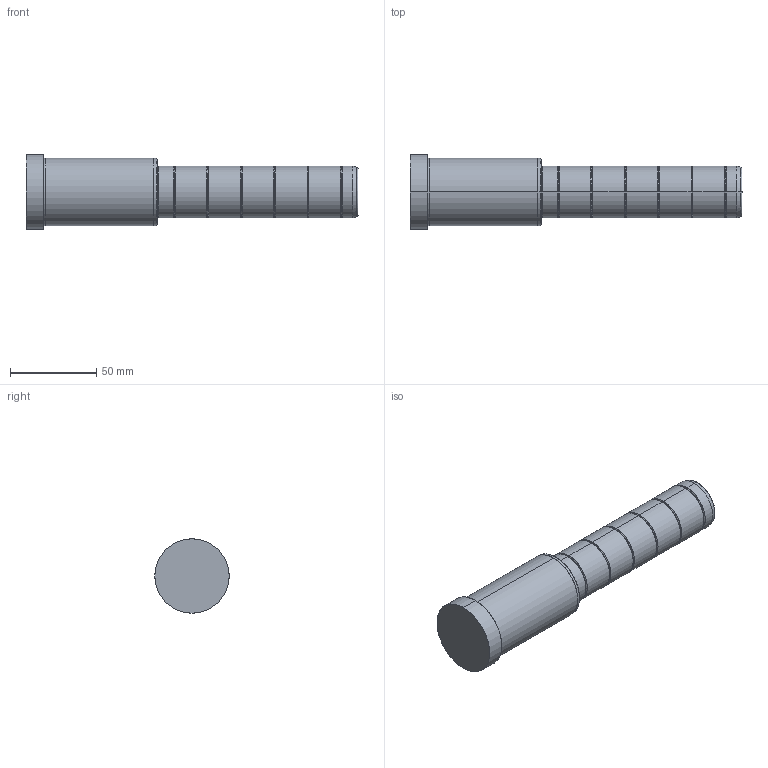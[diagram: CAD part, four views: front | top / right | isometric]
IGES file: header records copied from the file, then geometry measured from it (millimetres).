
Start section: SolidWorks IGES file using analytic representation for surfaces
Global section: file name: C:\Documents and Settings\kalite-mail\Desktop\IGS\D02\30\D02 - 30x76x116.IGS; native system: SolidWorks 2008; preprocessor: SolidWorks 2008; author: kalite-mail; date: 080617.093258; units: millimetre
Bounding box: 192 x 43 x 43 mm (x, y, z)
Surface area: 23436.5 mm2 (no closed solid volume)
Topology: 0 solids, 0 shells, 60 faces, 824 edges, 824 vertices
Faces by surface type: bspline 34, revolution 26
